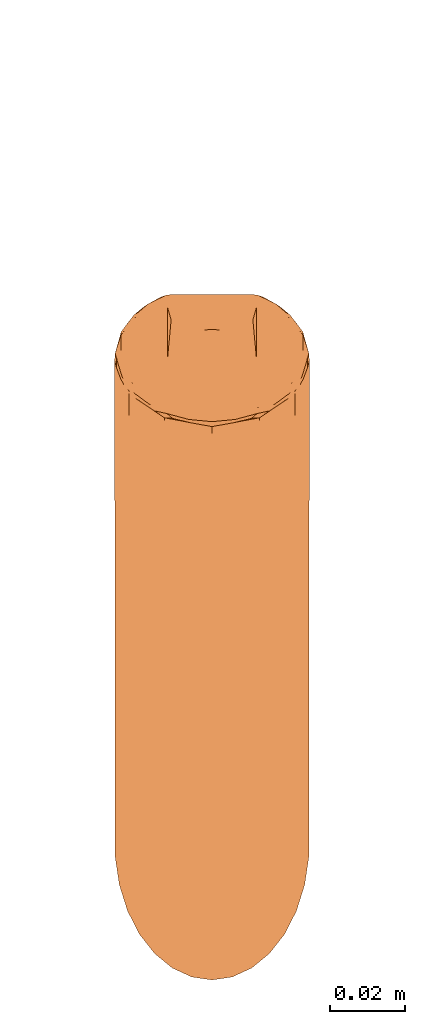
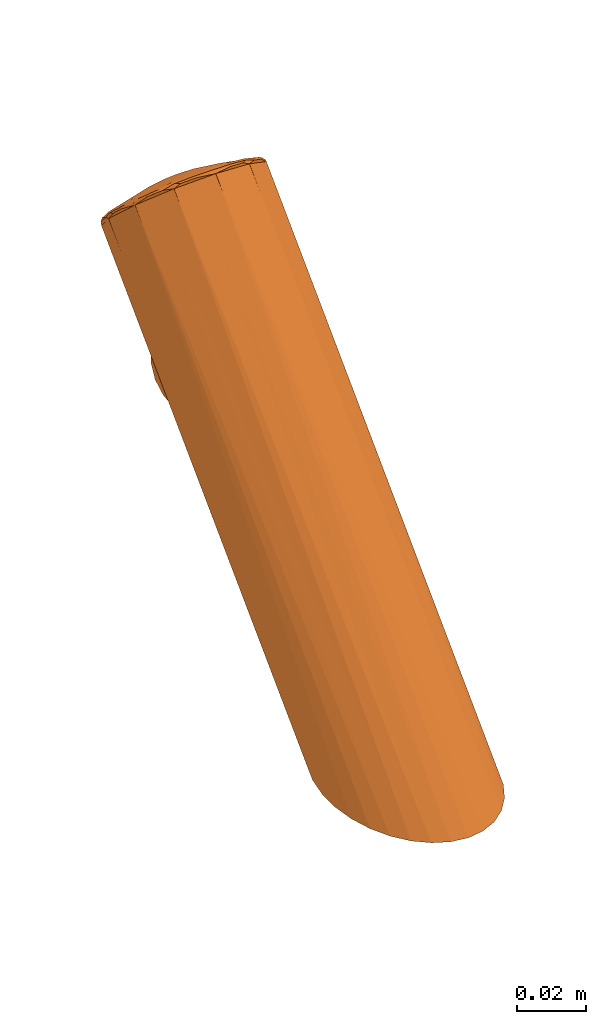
# One storey, part 2 of 2: 1 proxy.
"""IFC2X3 building model written with IfcOpenShell, lengths in millimetres."""

from ifc_helpers import new_model, entity, si_unit, converted_unit, frame, origin, place, context, project, spatial, face_set, surface_model, source, transform, mapped, element, save


model = new_model("IFC2X3")

# Units and contexts
model_context = context("Model", 3, precision=1e-06, world=origin())
plan_context = context("Plan", 3, precision=1e-06, world=origin())
ifc_project = project(units=[si_unit("LENGTHUNIT", "METRE", prefix="MILLI"), si_unit("AREAUNIT", "SQUARE_METRE", prefix="MILLI"), si_unit("VOLUMEUNIT", "CUBIC_METRE", prefix="MILLI"), converted_unit("PLANEANGLEUNIT", "DEGREE", entity("IfcRatioMeasure", 0.01745329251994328), si_unit("PLANEANGLEUNIT", "RADIAN"), dimensions=[0, 0, 0, 0, 0, 0, 0]), si_unit("TIMEUNIT", "SECOND")], contexts=[model_context, plan_context])

# Site, building, storey
site_placement = place(None, origin())
site = spatial("IfcSite", under=ifc_project, at=site_placement, Name="Default", CompositionType="ELEMENT")
building_placement = place(site_placement, origin())
building = spatial("IfcBuilding", under=site, at=building_placement, CompositionType="ELEMENT")
storey_placement = place(building_placement, origin())
storey = spatial("IfcBuildingStorey", under=building, at=storey_placement, Name="Level 1", CompositionType="ELEMENT", Elevation=0.0)

# Proxy
shared_shape = source(origin(), model_context, "Body", "SurfaceModel", [
    surface_model("IfcFaceBasedSurfaceModel", [(47.40116831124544, 144.1131545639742, 85.56176799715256), (46.71968483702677, 140.4529003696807, 81.90151411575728), (44.72167638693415, 137.0420864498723, 78.49070048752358), (41.5433039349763, 134.1131541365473, 75.56176842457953), (37.40116831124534, 131.8657053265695, 73.31431980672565), (32.57754921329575, 130.4528999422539, 71.90151454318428), (27.40116831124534, 129.9710183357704, 71.41963297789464), (22.22478740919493, 130.4528999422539, 71.90151454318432), (17.40116831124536, 131.8657053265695, 73.31431980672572), (13.25903268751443, 134.1131541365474, 75.56176842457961), (10.08066023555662, 137.0420864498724, 78.4907004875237), (8.082651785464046, 140.4529003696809, 81.90151411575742), (7.401168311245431, 144.1131545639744, 85.5617679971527), (8.08265178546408, 147.7734087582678, 89.22202187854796), (10.08066023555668, 151.1842226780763, 92.63283550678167), (13.25903268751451, 154.1131549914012, 95.56176756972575), (17.40116831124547, 156.3606038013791, 97.80921618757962), (22.22478740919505, 157.7734091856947, 99.22202145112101), (27.40116831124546, 158.2552907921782, 99.70390301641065), (32.57754921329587, 157.7734091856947, 99.222021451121), (37.40116831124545, 156.3606038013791, 97.80921618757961), (41.54330393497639, 154.1131549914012, 95.56176756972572), (44.72167638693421, 151.1842226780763, 92.63283550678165), (46.7196848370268, 147.7734087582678, 89.22202187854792), (47.40116831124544, 149.2134878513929, 80.46143427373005), (46.71968483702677, 145.5532336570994, 76.80118039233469), (44.72167638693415, 142.1424197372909, 73.39036676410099), (41.5433039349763, 139.213487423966, 70.46143470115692), (37.40116831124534, 136.9660386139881, 68.21398608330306), (32.57754921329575, 135.5532332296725, 66.80118081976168), (27.40116831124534, 135.0713516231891, 66.31929925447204), (22.22478740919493, 135.5532332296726, 66.80118081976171), (17.40116831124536, 136.9660386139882, 68.21398608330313), (13.25903268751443, 139.2134874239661, 70.461434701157), (10.08066023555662, 142.1424197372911, 73.39036676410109), (8.082651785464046, 145.5532336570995, 76.80118039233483), (7.401168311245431, 149.213487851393, 80.46143427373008), (8.08265178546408, 152.8737420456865, 84.12168815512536), (10.08066023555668, 156.2845559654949, 87.53250178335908), (13.25903268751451, 159.2134882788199, 90.46143384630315), (17.40116831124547, 161.4609370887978, 92.70888246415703), (22.22478740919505, 162.8737424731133, 94.12168772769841), (27.40116831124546, 163.3556240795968, 94.60356929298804), (32.57754921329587, 162.8737424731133, 94.1216877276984), (37.40116831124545, 161.4609370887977, 92.70888246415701), (41.54330393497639, 159.2134882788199, 90.46143384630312), (44.72167638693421, 156.2845559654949, 87.53250178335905), (46.7196848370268, 152.8737420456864, 84.12168815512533), (39.98233187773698, 149.2243209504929, 80.47226737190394), (39.55363912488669, 146.9218081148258, 78.16975473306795), (38.29677556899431, 144.776207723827, 76.0241545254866), (36.29739438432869, 142.9337388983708, 74.18168585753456), (33.69175009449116, 141.5199628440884, 72.76790992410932), (30.65741305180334, 140.6312260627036, 71.87917321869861), (27.40116831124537, 140.328094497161, 71.57604167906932), (24.14492357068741, 140.6312260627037, 71.87917321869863), (21.11058652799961, 141.5199628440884, 72.76790992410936), (18.50494223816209, 142.9337388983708, 74.18168585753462), (16.50556105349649, 144.776207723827, 76.02415452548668), (15.24869749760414, 146.9218081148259, 78.16975473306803), (14.82000474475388, 149.224320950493, 80.47226737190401), (15.24869749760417, 151.5268337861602, 82.77478001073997), (16.50556105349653, 153.672434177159, 84.92038021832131), (18.50494223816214, 155.5149030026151, 86.76284888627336), (21.11058652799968, 156.9286790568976, 88.17662481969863), (24.14492357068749, 157.8174158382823, 89.06536152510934), (27.40116831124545, 158.1205474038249, 89.36849306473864), (30.65741305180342, 157.8174158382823, 89.06536152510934), (33.69175009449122, 156.9286790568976, 88.1766248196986), (36.29739438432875, 155.5149030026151, 86.76284888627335), (38.29677556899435, 153.672434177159, 84.9203802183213), (39.55363912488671, 151.5268337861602, 82.77478001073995), (39.98233187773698, 154.3246542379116, 75.37193364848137), (39.55363912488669, 152.0221414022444, 73.06942100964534), (38.29677556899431, 149.8765410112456, 70.923820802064), (36.29739438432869, 148.0340721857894, 69.08135213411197), (33.69175009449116, 146.620296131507, 67.66757620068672), (30.65741305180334, 145.7315593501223, 66.77883949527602), (27.40116831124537, 145.4284277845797, 66.47570795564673), (24.14492357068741, 145.7315593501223, 66.77883949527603), (21.11058652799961, 146.6202961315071, 67.66757620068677), (18.50494223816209, 148.0340721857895, 69.08135213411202), (16.50556105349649, 149.8765410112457, 70.92382080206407), (15.24869749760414, 152.0221414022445, 73.06942100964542), (14.82000474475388, 154.3246542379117, 75.3719336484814), (15.24869749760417, 156.6271670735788, 77.67444628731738), (16.50556105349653, 158.7727674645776, 79.82004649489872), (18.50494223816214, 160.6152362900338, 81.66251516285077), (21.11058652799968, 162.0290123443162, 83.07629109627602), (24.14492357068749, 162.917749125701, 83.96502780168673), (27.40116831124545, 163.2208806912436, 84.26815934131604), (30.65741305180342, 162.917749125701, 83.96502780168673), (33.69175009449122, 162.0290123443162, 83.07629109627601), (36.29739438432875, 160.6152362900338, 81.66251516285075), (38.29677556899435, 158.7727674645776, 79.8200464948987), (39.55363912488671, 156.6271670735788, 77.67444628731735), (12.25059700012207, 8.58806037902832, 0.0), (10.0816822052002, 154.1847686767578, 141.4745635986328), (8.22826099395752, 13.70995044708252, 0.0), (27.4686450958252, 148.6273040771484, 147.0320281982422), (22.08570861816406, 2.395397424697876, 0.0), (27.4686450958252, 1.595264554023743, 0.0), (1.719985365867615, 34.3826789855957, 0.0), (1.595272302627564, 166.2690277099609, 129.3903045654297), (1.719985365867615, 42.03723526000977, 0.0), (2.845325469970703, 26.8953914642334, 0.0), (5.046821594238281, 19.90261268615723, 0.0), (5.367223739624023, 157.3993225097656, 138.260009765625), (3.020503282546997, 170.7890625, 124.8702697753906), (2.845325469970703, 49.52451705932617, 0.0), (4.445734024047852, 175.3090972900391, 120.350227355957), (3.481246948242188, 161.8341827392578, 133.8251495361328), (14.79614067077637, 150.9702301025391, 144.6891021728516), (16.93803405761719, 4.760768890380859, 0.0), (21.13239288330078, 149.7987670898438, 145.8605651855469), (13.18902206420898, 182.2056884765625, 113.4536361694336), (13.18902206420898, 97.32686614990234, 28.57481193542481), (8.817378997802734, 178.7574005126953, 116.9019317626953), (8.22826099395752, 62.70995712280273, 0.0), (5.046821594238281, 56.51729202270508, 0.0), (16.4441032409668, 93.31787872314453, 22.05581855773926), (17.89009475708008, 92.1761474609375, 19.949462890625), (16.93803405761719, 71.65912628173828, 0.0), (22.10458183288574, 90.64942932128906, 16.6192512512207), (27.4686450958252, 90.09661865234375, 15.27198028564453), (27.4686450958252, 74.82464599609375, 0.0), (22.08570861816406, 74.02452087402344, 0.0), (19.51187133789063, 72.84182739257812, 0.0), (19.99733734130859, 91.41279602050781, 18.28435707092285), (14.99811267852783, 94.45960998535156, 24.16217231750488), (14.59431552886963, 69.74549102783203, 0.0), (18.22495269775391, 72.25048065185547, 0.0), (12.25059700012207, 67.83185577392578, 0.0), (51.4560432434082, 161.8341827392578, 133.8251495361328), (49.570068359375, 157.3993225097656, 138.260009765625), (52.09196472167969, 26.8953914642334, 0.0), (39.93917846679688, 94.45960998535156, 24.16217231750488), (40.34297561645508, 69.74549102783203, 0.0), (38.49318695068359, 93.31787872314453, 22.05581855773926), (37.04719543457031, 92.1761474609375, 19.949462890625), (35.42541885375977, 72.84182739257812, 0.0), (34.9399528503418, 91.41279602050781, 18.28435707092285), (49.89046859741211, 56.51729202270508, 0.0), (46.11991119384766, 178.7574005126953, 116.9019317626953), (50.49155807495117, 175.3090972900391, 120.350227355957), (46.70903015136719, 13.70995044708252, 0.0), (44.85560989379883, 154.1847686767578, 141.4745635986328), (41.74826812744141, 97.32686614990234, 28.57481193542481), (41.74826812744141, 182.2056884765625, 113.4536361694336), (42.68669509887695, 67.83185577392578, 0.0), (32.83270645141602, 90.64942932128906, 16.6192512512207), (32.85158157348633, 74.02452087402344, 0.0), (37.9992561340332, 71.65912628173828, 0.0), (36.71233749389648, 72.25048065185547, 0.0), (46.70903015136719, 62.70995712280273, 0.0), (52.09196472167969, 49.52451705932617, 0.0), (51.91678619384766, 170.7890625, 124.8702697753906), (53.21730422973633, 42.03723526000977, 0.0), (53.34201812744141, 166.2690277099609, 129.3903045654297), (53.21730422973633, 34.3826789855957, 0.0), (40.14115142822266, 150.9702301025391, 144.6891021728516), (42.68669509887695, 8.58806037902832, 0.0), (49.89046859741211, 19.90261268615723, 0.0), (33.80489730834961, 149.7987670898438, 145.8605651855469), (37.9992561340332, 4.760768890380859, 0.0), (32.85158157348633, 2.395397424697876, 0.0), (16.61433029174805, 176.9564056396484, 124.9535369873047), (15.62648963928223, 180.4233703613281, 119.9120941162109), (15.6619234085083, 166.7336883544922, 135.6325836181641), (21.66960906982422, 168.9580383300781, 134.7119140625), (27.4686450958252, 171.3216857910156, 133.1117248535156), (23.72855758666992, 174.283935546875, 129.4573516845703), (15.14225482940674, 153.7393646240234, 144.9283142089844), (27.4686450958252, 151.3495330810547, 147.3181457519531), (27.4686450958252, 161.7385406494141, 140.7814025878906), (27.4686450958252, 167.8391418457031, 135.8988952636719), (3.315436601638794, 169.0345611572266, 129.6331176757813), (6.263414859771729, 160.240478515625, 138.4272003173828), (27.4686450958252, 172.8767700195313, 131.3412780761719), (19.97692108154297, 174.001708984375, 129.2500915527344), (27.4686450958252, 174.3930053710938, 129.5374450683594), (7.122832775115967, 177.6620330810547, 121.0056533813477), (17.43135452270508, 183.7812805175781, 115.0292129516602), (17.02650451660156, 183.7462921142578, 114.9942321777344), (16.62071990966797, 183.7098693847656, 114.9578094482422), (31.2087345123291, 174.283935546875, 129.4573516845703), (51.62185287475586, 169.0345611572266, 129.6331176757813), (39.3108024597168, 180.4233703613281, 119.9120941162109), (39.27536773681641, 166.7336883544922, 135.6325836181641), (27.4686450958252, 155.1249237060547, 144.9426727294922), (37.91078567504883, 183.7462921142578, 114.9942321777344), (37.50593566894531, 183.7812805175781, 115.0292129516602), (47.81445693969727, 177.6620330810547, 121.0056533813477), (38.31657028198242, 183.7098693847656, 114.9578094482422), (48.67387771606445, 160.240478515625, 138.4272003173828), (39.79503631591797, 153.7393646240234, 144.9283142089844), (33.26768112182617, 168.9580383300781, 134.7119140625), (34.96036911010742, 174.001708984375, 129.2500915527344), (38.32295989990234, 176.9564056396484, 124.9535369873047), (19.1790714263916, 152.9567108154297, 145.7109680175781), (21.33813667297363, 150.52197265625, 147.1303863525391), (10.50432395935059, 181.2191925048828, 116.7529754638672), (13.89380550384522, 183.0761413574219, 114.324089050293), (9.293204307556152, 180.4122009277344, 116.5066909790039), (3.600743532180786, 161.7948303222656, 135.8282165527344), (4.789424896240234, 164.6375274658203, 134.0301513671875), (6.73662805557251, 157.5690765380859, 140.0672302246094), (10.70283508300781, 156.9899291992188, 141.6777496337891), (21.77123832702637, 149.6479339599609, 146.9909210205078), (19.14401626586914, 150.1663818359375, 145.4929504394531), (17.00065994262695, 150.8053741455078, 145.8880310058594), (8.302166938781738, 155.3462219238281, 141.4353179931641), (10.79729175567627, 154.5738220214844, 143.2296447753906), (7.451267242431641, 178.6420440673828, 119.6601181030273), (6.68686056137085, 178.2419586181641, 119.3231658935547), (3.247245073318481, 172.8768615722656, 125.0953063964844), (15.5057373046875, 152.0761566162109, 145.5417175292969), (12.15626811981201, 152.8172454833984, 143.8991241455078), (10.23333072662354, 179.6426544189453, 119.025016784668), (15.2122974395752, 183.5254516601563, 114.7733917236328), (3.329060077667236, 173.8059692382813, 123.0678787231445), (5.219133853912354, 173.3482971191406, 125.3193893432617), (1.742631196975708, 168.1359100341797, 128.6401062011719), (2.162102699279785, 166.4620056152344, 131.1602478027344), (3.197259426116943, 161.3303833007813, 135.3525695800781), (2.032509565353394, 164.44091796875, 132.1795196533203), (5.498024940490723, 157.9774627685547, 138.7638244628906), (27.4686450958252, 149.9377593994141, 147.6570892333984), (47.48602294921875, 178.6420440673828, 119.6601181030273), (51.69004440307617, 172.8768615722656, 125.0953063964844), (33.16605377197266, 149.6479339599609, 146.9909210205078), (41.04348373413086, 183.0761413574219, 114.324089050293), (44.43296813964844, 181.2191925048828, 116.7529754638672), (45.64408493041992, 180.4122009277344, 116.5066909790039), (48.25043106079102, 178.2419586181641, 119.3231658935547), (39.72499465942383, 183.5254516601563, 114.7733917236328), (44.70396041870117, 179.6426544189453, 119.025016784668), (52.77518844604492, 166.4620056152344, 131.1602478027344), (50.14786529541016, 164.6375274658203, 134.0301513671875), (51.60823059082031, 173.8059692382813, 123.0678787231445), (53.19466018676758, 168.1359100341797, 128.6401062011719), (44.23445510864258, 156.9899291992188, 141.6777496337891), (48.20066070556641, 157.5690765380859, 140.0672302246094), (51.3365478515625, 161.7948303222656, 135.8282165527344), (37.93663024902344, 150.8053741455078, 145.8880310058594), (33.59915542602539, 150.52197265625, 147.1303863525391), (51.74003219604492, 161.3303833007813, 135.3525695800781), (52.90478134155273, 164.44091796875, 132.1795196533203), (35.79327392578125, 150.1663818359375, 145.4929504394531), (39.43155288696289, 152.0761566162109, 145.5417175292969), (44.13999938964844, 154.5738220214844, 143.2296447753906), (49.71815872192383, 173.3482971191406, 125.3193893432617), (35.75822067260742, 152.9567108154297, 145.7109680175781), (42.78102111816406, 152.8172454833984, 143.8991241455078), (46.63512420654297, 155.3462219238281, 141.4353179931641), (49.43926620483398, 157.9774627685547, 138.7638244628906), (24.39323043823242, 97.32686614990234, 28.57481193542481)], [face_set([[[0, 1, 2, 3, 4, 5, 6, 7, 8, 9, 10, 11, 12, 13, 14, 15, 16, 17, 18, 19, 20, 21, 22, 23]], [[24, 25, 26, 27, 28, 29, 30, 31, 32, 33, 34, 35, 36, 37, 38, 39, 40, 41, 42, 43, 44, 45, 46, 47]], [[36, 35, 11, 12]], [[34, 10, 35]], [[33, 32, 8, 9]], [[34, 33, 9]], [[32, 31, 7, 8]], [[35, 10, 11]], [[9, 10, 34]], [[6, 7, 31, 30]], [[30, 29, 5, 6]], [[29, 28, 4, 5]], [[2, 27, 26]], [[28, 27, 3, 4]], [[1, 26, 25]], [[0, 1, 25, 24]], [[2, 26, 1]], [[2, 3, 27]], [[24, 47, 23, 0]], [[46, 22, 47]], [[45, 44, 20, 21]], [[46, 45, 21]], [[44, 43, 19, 20]], [[47, 22, 23]], [[21, 22, 46]], [[18, 19, 43, 42]], [[42, 41, 17, 18]], [[41, 40, 16, 17]], [[14, 39, 38]], [[40, 39, 15, 16]], [[13, 38, 37]], [[12, 13, 37, 36]], [[14, 38, 13]], [[14, 15, 39]]]), face_set([[[48, 49, 50, 51, 52, 53, 54, 55, 56, 57, 58, 59, 60, 61, 62, 63, 64, 65, 66, 67, 68, 69, 70, 71]], [[72, 73, 74, 75, 76, 77, 78, 79, 80, 81, 82, 83, 84, 85, 86, 87, 88, 89, 90, 91, 92, 93, 94, 95]], [[83, 59, 84]], [[83, 82, 58, 59]], [[81, 80, 56, 57]], [[82, 81, 57]], [[55, 80, 79]], [[59, 60, 84]], [[55, 56, 80]], [[57, 58, 82]], [[54, 55, 79]], [[79, 78, 54]], [[77, 53, 78]], [[76, 52, 77]], [[50, 75, 74]], [[76, 75, 51, 52]], [[74, 73, 49, 50]], [[52, 53, 77]], [[48, 49, 73]], [[50, 51, 75]], [[72, 48, 73]], [[78, 53, 54]], [[72, 95, 71, 48]], [[95, 94, 70, 71]], [[93, 92, 68, 69]], [[94, 93, 69, 70]], [[92, 91, 67, 68]], [[66, 67, 91, 90]], [[90, 89, 65, 66]], [[89, 88, 64, 65]], [[87, 86, 62, 63]], [[88, 87, 63, 64]], [[86, 85, 61, 62]], [[60, 61, 85, 84]]]), face_set([[[96, 97, 98]], [[99, 100, 101]], [[102, 103, 104]], [[105, 106, 107]], [[104, 108, 109]], [[110, 109, 108]], [[105, 111, 102]], [[112, 113, 114]], [[100, 114, 113]], [[115, 116, 117]], [[100, 99, 114]], [[112, 96, 113]], [[107, 106, 98]], [[103, 102, 111]], [[105, 107, 111]], [[116, 118, 117]], [[97, 107, 98]], [[119, 117, 118]], [[120, 121, 122]], [[117, 119, 110]], [[123, 124, 125]], [[126, 127, 128]], [[129, 130, 116]], [[127, 121, 128]], [[119, 109, 110]], [[121, 127, 131]], [[130, 120, 122]], [[125, 126, 123]], [[126, 128, 123]], [[132, 116, 130]], [[120, 130, 129]], [[131, 122, 121]], [[118, 116, 132]], [[97, 96, 112]], [[103, 108, 104]], [[133, 134, 135]], [[136, 137, 138]], [[139, 140, 141]], [[142, 143, 144]], [[145, 134, 146]], [[143, 147, 148]], [[147, 149, 137]], [[150, 125, 124]], [[150, 151, 125]], [[147, 137, 136]], [[152, 139, 138]], [[141, 151, 150]], [[139, 152, 153]], [[149, 147, 154]], [[137, 152, 138]], [[139, 153, 140]], [[154, 143, 142]], [[151, 141, 140]], [[144, 155, 142]], [[155, 144, 156]], [[156, 157, 155]], [[157, 158, 159]], [[158, 157, 156]], [[160, 161, 146]], [[135, 134, 162]], [[163, 164, 160]], [[101, 165, 99]], [[147, 143, 154]], [[134, 145, 162]], [[159, 133, 135]], [[163, 99, 165]], [[161, 160, 164]], [[161, 145, 146]], [[164, 163, 165]], [[133, 159, 158]], [[166, 167, 168]], [[169, 170, 171]], [[172, 173, 174]], [[170, 169, 175]], [[172, 174, 168]], [[176, 177, 168]], [[168, 177, 172]], [[169, 174, 175]], [[171, 170, 178]], [[179, 169, 171]], [[178, 180, 171]], [[174, 169, 168]], [[176, 168, 167]], [[176, 167, 181]], [[166, 168, 179]], [[182, 183, 181]], [[184, 181, 183]], [[181, 167, 182]], [[179, 168, 169]], [[185, 180, 178]], [[186, 187, 188]], [[170, 185, 178]], [[189, 188, 174]], [[190, 191, 192]], [[193, 190, 192]], [[192, 187, 186]], [[194, 189, 195]], [[187, 192, 191]], [[196, 188, 197]], [[196, 170, 175]], [[196, 174, 188]], [[198, 188, 187]], [[170, 196, 185]], [[197, 188, 198]], [[186, 188, 194]], [[188, 189, 194]], [[173, 195, 189]], [[196, 197, 185]], [[174, 196, 175]], [[173, 199, 200]], [[201, 202, 203]], [[204, 177, 205]], [[206, 207, 177]], [[208, 209, 210]], [[211, 212, 206]], [[213, 214, 215]], [[172, 216, 199]], [[216, 217, 210]], [[218, 184, 219]], [[172, 207, 212]], [[115, 203, 202]], [[213, 215, 181]], [[214, 201, 203]], [[220, 214, 110]], [[203, 117, 115]], [[202, 201, 219]], [[181, 218, 213]], [[117, 203, 110]], [[215, 176, 221]], [[201, 218, 219]], [[214, 203, 110]], [[214, 213, 201]], [[220, 222, 215]], [[218, 201, 213]], [[215, 223, 176]], [[224, 204, 225]], [[222, 103, 225]], [[216, 210, 200]], [[208, 200, 210]], [[226, 107, 211]], [[204, 205, 223]], [[217, 112, 210]], [[112, 210, 209]], [[227, 200, 208]], [[97, 217, 112]], [[173, 200, 227]], [[199, 216, 200]], [[211, 97, 107]], [[212, 217, 216]], [[217, 97, 211]], [[172, 212, 216]], [[207, 206, 212]], [[208, 99, 209]], [[227, 208, 99]], [[212, 211, 217]], [[211, 206, 226]], [[206, 204, 226]], [[177, 204, 206]], [[103, 225, 111]], [[107, 226, 224]], [[204, 223, 225]], [[224, 111, 225]], [[176, 223, 205]], [[222, 225, 223]], [[223, 215, 222]], [[108, 220, 222]], [[110, 220, 108]], [[222, 103, 108]], [[214, 220, 215]], [[111, 224, 107]], [[226, 204, 224]], [[181, 215, 221]], [[228, 192, 229]], [[99, 230, 227]], [[231, 232, 233]], [[229, 234, 228]], [[232, 231, 235]], [[228, 232, 236]], [[237, 229, 186]], [[233, 234, 144]], [[186, 238, 237]], [[232, 228, 234]], [[234, 229, 239]], [[156, 240, 239]], [[194, 241, 242]], [[242, 243, 194]], [[230, 244, 245]], [[233, 148, 231]], [[234, 233, 232]], [[227, 245, 173]], [[235, 193, 236]], [[246, 247, 243]], [[228, 236, 192]], [[160, 248, 244]], [[195, 249, 250]], [[229, 192, 251]], [[236, 232, 235]], [[240, 237, 247]], [[143, 233, 148]], [[233, 143, 144]], [[195, 252, 249]], [[146, 160, 253]], [[253, 254, 146]], [[253, 250, 249]], [[242, 254, 255]], [[230, 244, 248]], [[244, 253, 249]], [[244, 249, 245]], [[249, 252, 245]], [[173, 245, 252]], [[134, 255, 254]], [[253, 244, 160]], [[253, 254, 250]], [[242, 241, 250]], [[195, 250, 241]], [[227, 230, 245]], [[230, 248, 99]], [[146, 254, 134]], [[250, 254, 242]], [[247, 158, 133]], [[243, 242, 255]], [[246, 133, 134]], [[133, 246, 247]], [[237, 238, 243]], [[240, 247, 158]], [[194, 243, 238]], [[243, 247, 237]], [[239, 144, 156]], [[229, 237, 240]], [[156, 158, 240]], [[234, 239, 144]], [[240, 239, 229]], [[243, 255, 246]], [[134, 246, 255]], [[251, 186, 229]], [[121, 129, 256]], [[256, 147, 136]], [[129, 116, 256]], [[256, 136, 139]], [[256, 150, 123]], [[256, 139, 150]], [[124, 123, 150]], [[256, 123, 121]], [[147, 116, 115, 202, 219, 184, 183, 182, 191, 190, 193, 235, 231, 148]], [[101, 113, 98, 105, 104, 119, 132, 126, 125, 152, 154, 155, 159, 162, 161, 165]], [[179, 197, 198, 187, 191, 182, 167, 166]], [[197, 185, 180, 171, 179]]])]),
])
proxy_placement = place(storey_placement, frame((-2234.219997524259, -1496.682224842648, 0.0)))
element("IfcBuildingElementProxy", 1, at=proxy_placement, inside=storey, Name="440106", ObjectType="440106", CompositionType="ELEMENT", context=model_context, shape_type="MappedRepresentation", body=[
    mapped(shared_shape, transform((0.0, 0.0, 0.0), scale=1.0)),
])

save(model, "model.ifc")
